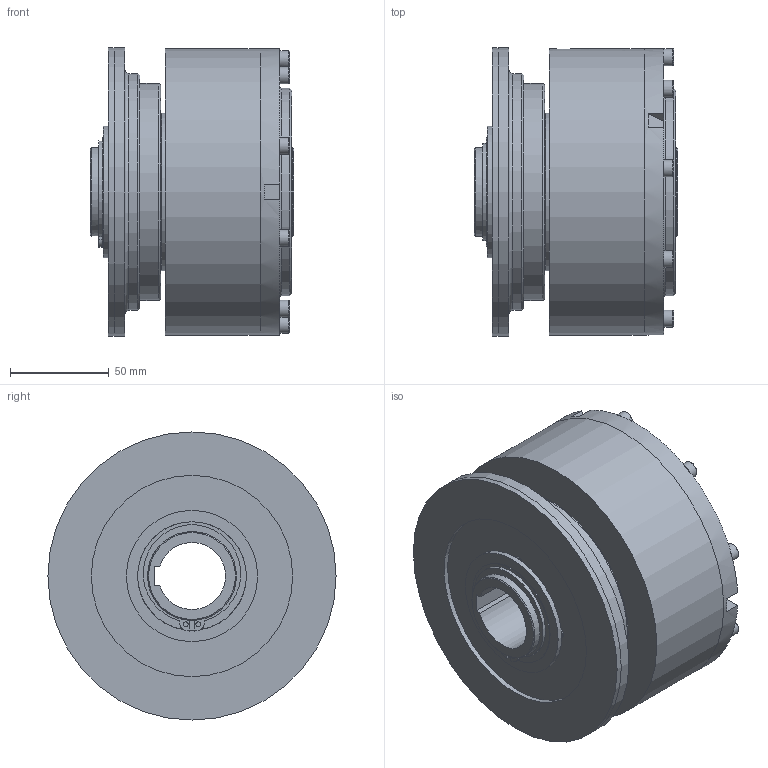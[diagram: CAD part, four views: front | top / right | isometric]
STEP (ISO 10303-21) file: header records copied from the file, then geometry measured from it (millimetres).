
FILE_DESCRIPTION(/* description */ (''),/* implementation_level */ '2;1');
FILE_NAME(/* name */ 'X:\INVENTOR\DISEGNI\03_Friz_Oleod_Pneum_Cil_Stat\03_53 MP-N\03_53_03_01 MP-N03\03_53_03_01 MP-N03@STEP.stp',/* time_stamp */ '2023-02-06T11:19:33+01:00',/* author */ ('alessio'),/* organization */ (''),/* preprocessor_version */ 'ST-DEVELOPER v18.1',/* originating_system */ 'Autodesk Inventor 2021',/* authorisation */ '');
FILE_SCHEMA (('AUTOMOTIVE_DESIGN { 1 0 10303 214 3 1 1 }'));
Products named in the file (1): 03_53_03_01 MP-N03
Bounding box: 103 x 146 x 146 mm (x, y, z)
Volume: 1078864.8 mm3; surface area: 258862.6 mm2
Topology: 1 solids, 25 shells, 963 faces, 2742 edges, 1803 vertices
Faces by surface type: cylinder 381, plane 209, torus 202, bspline 112, cone 38, sphere 21
Full cylindrical faces by diameter (mm): 2.5 x4, 3.5 x2, 4.134 x9, 5 x9, 5.25 x4, 5.3 x9, 6 x1, 8.5 x9, 8.566 x1, 9.5 x12, 42.5 x2, 45 x6, 53 x1, 55 x1, 56 x1, 57.8 x2, 66.5 x1, 68 x1, 70 x2, 72.2 x2, 73 x1, 80 x3, 82.8 x2, 85 x3, 88.5 x1, 89.5 x1, 97.2 x2, 98 x1, 102 x1, 105 x1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
Entity records: 57130 total; most frequent: CARTESIAN_POINT 31482, ORIENTED_EDGE 5362, DIRECTION 5053, EDGE_CURVE 2681, AXIS2_PLACEMENT_3D 2205, VERTEX_POINT 1803, CIRCLE 1349, EDGE_LOOP 1128
